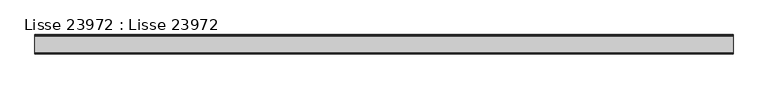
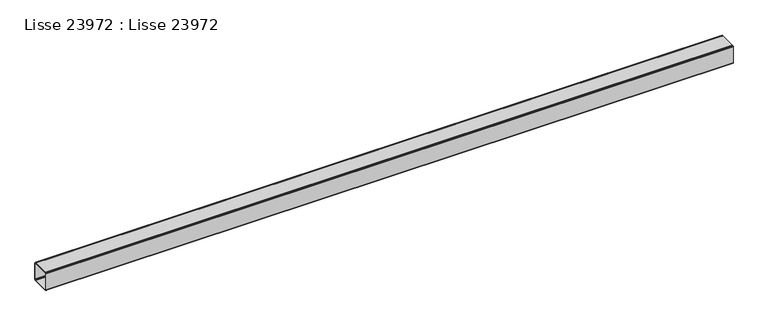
"""IFC4 building model written with IfcOpenShell, lengths in millimetres: beam geometry, Lisse 23972 : Lisse 23972."""

from ifc_helpers import new_model, si_unit, frame, origin, place, context, project, spatial, polyline, outline, extrude, source, transform, mapped, element, save


def lisse_23972_lisse_23972_bca0d4a3(model_context):
    return source(origin(), model_context, "Body", "SweptSolid", [
        extrude(outline(polyline([(-29093.45, 8322.7356589), (-29005.45, 8322.7356589), (-29002.45, 8321.9318113), (-29000.2538476, 8319.7356589), (-28999.45, 8316.7356589), (-28999.45, 8228.7356589), (-29000.2538476, 8225.7356589), (-29002.45, 8223.5395065), (-29005.45, 8222.7356589), (-29093.45, 8222.7356589), (-29096.45, 8223.5395065), (-29098.6461524, 8225.7356589), (-29099.45, 8228.7356589), (-29099.45, 8316.7356589), (-29098.6461524, 8319.7356589), (-29096.45, 8321.9318113), (-29093.45, 8322.7356589)]), holes=[polyline([(-29095.45, 8314.7356589), (-29095.45, 8230.7356589), (-29094.9141016, 8228.7356589), (-29093.45, 8227.2715573), (-29091.45, 8226.7356589), (-29007.45, 8226.7356589), (-29005.45, 8227.2715573), (-29003.9858984, 8228.7356589), (-29003.45, 8230.7356589), (-29003.45, 8314.7356589), (-29003.9858984, 8316.7356589), (-29005.45, 8318.1997605), (-29007.45, 8318.7356589), (-29091.45, 8318.7356589), (-29093.45, 8318.1997605), (-29094.9141016, 8316.7356589), (-29095.45, 8314.7356589)])]), frame((24.9999999, 0.0, 0.0), z_axis=(1.0, 0.0, 0.0), x_axis=(0.0, 1.0, 0.0)), (0.0, 0.0, 1.0), 3627.5),
    ])


if __name__ == "__main__":
    model = new_model("IFC4")
    model_context = context("Model", 3, world=origin())
    ifc_project = project(units=[si_unit("LENGTHUNIT", "METRE", prefix="MILLI")], contexts=[model_context])
    site = spatial("IfcSite", under=ifc_project)
    building = spatial("IfcBuilding", under=site)
    placement = place(None, origin())
    lisse_23972_lisse_23972_shape = lisse_23972_lisse_23972_bca0d4a3(model_context)
    element("IfcBeam", 1, ObjectType="Lisse 23972 : Lisse 23972", at=placement, inside=building, context=model_context, shape_type="MappedRepresentation", body=[
        mapped(lisse_23972_lisse_23972_shape, transform((0.0, 0.0, 0.0), x_axis=(1.0, 0.0, 0.0), y_axis=(0.0, 1.0, 0.0), z_axis=(0.0, 0.0, 1.0))),
    ])
    save(model, "model.ifc")
